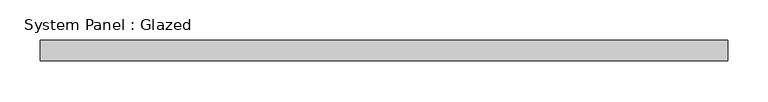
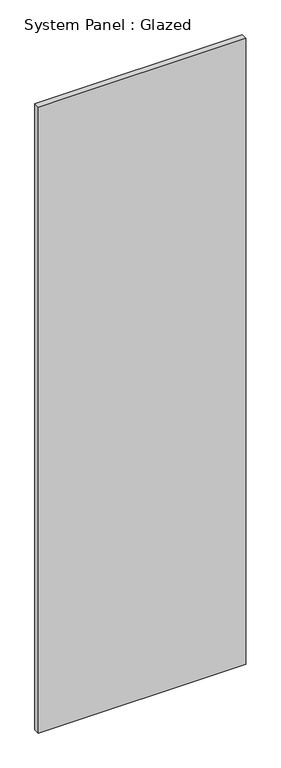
"""IFC4 building model written with IfcOpenShell, lengths in millimetres: plate geometry, System Panel : Glazed."""

from ifc_helpers import new_model, si_unit, origin, origin_with_axes, place, context, project, spatial, polyline, outline, extrude, source, transform, mapped, element, save


def system_panel_glazed_9d8b6f53(model_context):
    return source(origin(), model_context, "Body", "SweptSolid", [
        extrude(outline(polyline([(425.45, 19.05), (-425.45, 19.05), (-425.45, 44.45), (425.45, 44.45), (425.45, 19.05)])), origin_with_axes(), (0.0, 0.0, 1.0), 2717.8),
    ])


if __name__ == "__main__":
    model = new_model("IFC4")
    model_context = context("Model", 3, world=origin())
    ifc_project = project(units=[si_unit("LENGTHUNIT", "METRE", prefix="MILLI")], contexts=[model_context])
    site = spatial("IfcSite", under=ifc_project)
    building = spatial("IfcBuilding", under=site)
    placement = place(None, origin())
    system_panel_glazed_shape = system_panel_glazed_9d8b6f53(model_context)
    element("IfcPlate", 1, ObjectType="System Panel : Glazed", at=placement, inside=building, context=model_context, shape_type="MappedRepresentation", body=[
        mapped(system_panel_glazed_shape, transform((0.0, 0.0, 0.0), x_axis=(1.0, 0.0, 0.0), y_axis=(0.0, 1.0, 0.0), z_axis=(0.0, 0.0, 1.0))),
    ])
    save(model, "model.ifc")
